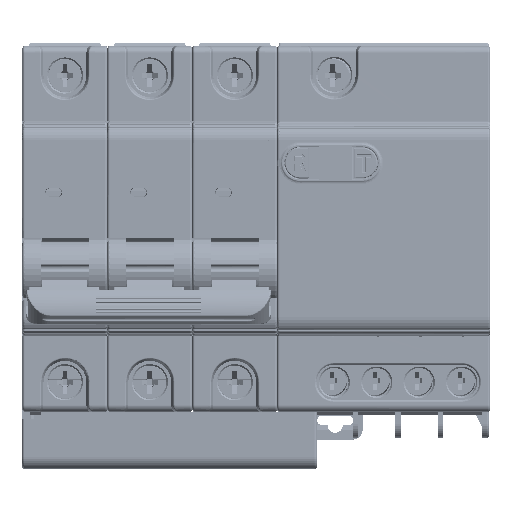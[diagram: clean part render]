
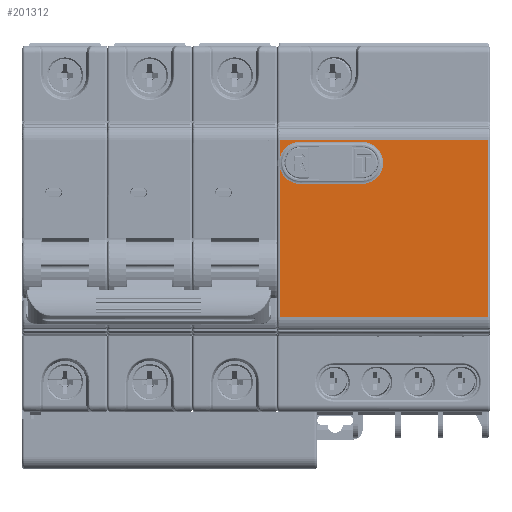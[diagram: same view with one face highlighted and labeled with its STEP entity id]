
A CAD part, top view. The second image highlights one B-rep face of the part: STEP entity #201312.
In plain terms, the highlighted planar face has unit normal (0, 0, 1) as drawn and (0, 1, 0) by its records, which use the part's own axes.
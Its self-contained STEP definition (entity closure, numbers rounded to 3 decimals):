
#8890 = CARTESIAN_POINT ( 'NONE',  ( 22.5, 14., 53.4 ) ) ;
#11110 = CARTESIAN_POINT ( 'NONE',  ( 12.852, 14., 53.9 ) ) ;
#13537 = CARTESIAN_POINT ( 'NONE',  ( 9.405, 14., 71.2 ) ) ;
#16001 = CARTESIAN_POINT ( 'NONE',  ( 13.8, 14., 58.2 ) ) ;
#20231 = VERTEX_POINT ( 'NONE', #381033 ) ;
#21774 = CARTESIAN_POINT ( 'NONE',  ( 14.748, 14., 53.9 ) ) ;
#35512 = CARTESIAN_POINT ( 'NONE',  ( -18.5, 14., 97.5 ) ) ;
#39572 = VERTEX_POINT ( 'NONE', #11110 ) ;
#44942 = DIRECTION ( 'NONE',  ( -1., 0., 0. ) ) ;
#47739 = CARTESIAN_POINT ( 'NONE',  ( -18.5, 14., 97.5 ) ) ;
#49566 = CARTESIAN_POINT ( 'NONE',  ( 9.397, 14., 58.2 ) ) ;
#54846 = CARTESIAN_POINT ( 'NONE',  ( 18.5, 14., 97.5 ) ) ;
#60823 = LINE ( 'NONE', #223424, #78233 ) ;
#67202 = AXIS2_PLACEMENT_3D ( 'NONE', #209396, #108935, #363497 ) ;
#78233 = VECTOR ( 'NONE', #379637, 1000. ) ;
#81661 = ORIENTED_EDGE ( 'NONE', *, *, #420386, .F. ) ;
#88017 = EDGE_CURVE ( 'NONE', #197928, #267893, #149338, .T. ) ;
#93606 = CARTESIAN_POINT ( 'NONE',  ( 9.397, 14., 58.2 ) ) ;
#93959 = VERTEX_POINT ( 'NONE', #409238 ) ;
#103991 = EDGE_CURVE ( 'NONE', #20231, #301084, #367635, .T. ) ;
#107470 = CARTESIAN_POINT ( 'NONE',  ( 9.401, 14., 66.867 ) ) ;
#108935 = DIRECTION ( 'NONE',  ( 0., 1., 0. ) ) ;
#111171 = CARTESIAN_POINT ( 'NONE',  ( 18.5, 14., 97.5 ) ) ;
#113362 = LINE ( 'NONE', #175386, #361345 ) ;
#131083 = ORIENTED_EDGE ( 'NONE', *, *, #103991, .F. ) ;
#131208 = CARTESIAN_POINT ( 'NONE',  ( 18.5, 14., 53.9 ) ) ;
#139335 = DIRECTION ( 'NONE',  ( 0., 1., 0. ) ) ;
#140739 = CARTESIAN_POINT ( 'NONE',  ( 18.203, 14., 58.2 ) ) ;
#146419 = DIRECTION ( 'NONE',  ( -0.215, 0., -0.977 ) ) ;
#149338 = CIRCLE ( 'NONE', #67202, 4.403 ) ;
#152041 = ORIENTED_EDGE ( 'NONE', *, *, #416262, .T. ) ;
#152795 = ORIENTED_EDGE ( 'NONE', *, *, #250475, .T. ) ;
#175386 = CARTESIAN_POINT ( 'NONE',  ( 18.5, 14., 53.9 ) ) ;
#183963 = CARTESIAN_POINT ( 'NONE',  ( 18.207, 14., 71.195 ) ) ;
#186704 = DIRECTION ( 'NONE',  ( 1., 0., 0. ) ) ;
#189418 = ORIENTED_EDGE ( 'NONE', *, *, #260406, .T. ) ;
#197928 = VERTEX_POINT ( 'NONE', #13537 ) ;
#201312 = ADVANCED_FACE ( 'NONE', ( #301912 ), #336091, .T. ) ;
#201997 = VERTEX_POINT ( 'NONE', #93606 ) ;
#209396 = CARTESIAN_POINT ( 'NONE',  ( 13.81, 14., 71.2 ) ) ;
#223424 = CARTESIAN_POINT ( 'NONE',  ( -18.5, 14., 53.9 ) ) ;
#226868 = VECTOR ( 'NONE', #303648, 1000. ) ;
#233600 = CIRCLE ( 'NONE', #329423, 4.403 ) ;
#234937 = CARTESIAN_POINT ( 'NONE',  ( 18.208, 14., 66.863 ) ) ;
#241223 = CARTESIAN_POINT ( 'NONE',  ( 18.207, 14., 71.195 ) ) ;
#244181 = ORIENTED_EDGE ( 'NONE', *, *, #363155, .T. ) ;
#250475 = EDGE_CURVE ( 'NONE', #20231, #267893, #407671, .T. ) ;
#252081 = AXIS2_PLACEMENT_3D ( 'NONE', #8890, #139335, #271935 ) ;
#260107 = DIRECTION ( 'NONE',  ( 1., 0., 0. ) ) ;
#260406 = EDGE_CURVE ( 'NONE', #312184, #350527, #347875, .T. ) ;
#267893 = VERTEX_POINT ( 'NONE', #183963 ) ;
#267919 = CARTESIAN_POINT ( 'NONE',  ( 9.399, 14., 62.533 ) ) ;
#271935 = DIRECTION ( 'NONE',  ( 1., 0., 0. ) ) ;
#281551 = VECTOR ( 'NONE', #260107, 1000. ) ;
#283719 = DIRECTION ( 'NONE',  ( 0., 0., -1. ) ) ;
#289268 = CARTESIAN_POINT ( 'NONE',  ( 13.8, 14., 58.2 ) ) ;
#290479 = VERTEX_POINT ( 'NONE', #47739 ) ;
#301084 = VERTEX_POINT ( 'NONE', #21774 ) ;
#301912 = FACE_OUTER_BOUND ( 'NONE', #381215, .T. ) ;
#302723 = ORIENTED_EDGE ( 'NONE', *, *, #88017, .F. ) ;
#303648 = DIRECTION ( 'NONE',  ( -1., 0., 0. ) ) ;
#304138 = B_SPLINE_CURVE_WITH_KNOTS ( 'NONE', 3,
 ( #306318, #107470, #267919, #49566 ),
 .UNSPECIFIED., .F., .F.,
 ( 4, 4 ),
 ( 0., 1. ),
 .UNSPECIFIED. ) ;
#306318 = CARTESIAN_POINT ( 'NONE',  ( 9.405, 14., 71.2 ) ) ;
#312184 = VERTEX_POINT ( 'NONE', #111171 ) ;
#313260 = DIRECTION ( 'NONE',  ( 0., 1., 0. ) ) ;
#318035 = ORIENTED_EDGE ( 'NONE', *, *, #324209, .T. ) ;
#321464 = EDGE_CURVE ( 'NONE', #290479, #312184, #328499, .T. ) ;
#324209 = EDGE_CURVE ( 'NONE', #93959, #290479, #60823, .T. ) ;
#325721 = AXIS2_PLACEMENT_3D ( 'NONE', #289268, #415569, #186704 ) ;
#328499 = LINE ( 'NONE', #35512, #281551 ) ;
#329423 = AXIS2_PLACEMENT_3D ( 'NONE', #16001, #313260, #146419 ) ;
#335736 = CARTESIAN_POINT ( 'NONE',  ( 12.852, 14., 53.9 ) ) ;
#336091 = PLANE ( 'NONE',  #252081 ) ;
#342043 = ORIENTED_EDGE ( 'NONE', *, *, #321464, .T. ) ;
#347875 = LINE ( 'NONE', #54846, #362403 ) ;
#350527 = VERTEX_POINT ( 'NONE', #131208 ) ;
#361345 = VECTOR ( 'NONE', #44942, 1000. ) ;
#362403 = VECTOR ( 'NONE', #283719, 1000. ) ;
#363155 = EDGE_CURVE ( 'NONE', #350527, #301084, #113362, .T. ) ;
#363497 = DIRECTION ( 'NONE',  ( -1., 0., 0. ) ) ;
#367635 = CIRCLE ( 'NONE', #325721, 4.403 ) ;
#371450 = ORIENTED_EDGE ( 'NONE', *, *, #403971, .T. ) ;
#379637 = DIRECTION ( 'NONE',  ( 0., 0., 1. ) ) ;
#381033 = CARTESIAN_POINT ( 'NONE',  ( 18.203, 14., 58.2 ) ) ;
#381215 = EDGE_LOOP ( 'NONE', ( #244181, #131083, #152795, #302723, #152041, #81661, #371450, #318035, #342043, #189418 ) ) ;
#399573 = CARTESIAN_POINT ( 'NONE',  ( 18.206, 14., 62.532 ) ) ;
#399901 = LINE ( 'NONE', #335736, #226868 ) ;
#403971 = EDGE_CURVE ( 'NONE', #39572, #93959, #399901, .T. ) ;
#407671 = B_SPLINE_CURVE_WITH_KNOTS ( 'NONE', 3,
 ( #140739, #399573, #234937, #241223 ),
 .UNSPECIFIED., .F., .F.,
 ( 4, 4 ),
 ( 0., 1. ),
 .UNSPECIFIED. ) ;
#409238 = CARTESIAN_POINT ( 'NONE',  ( -18.5, 14., 53.9 ) ) ;
#415569 = DIRECTION ( 'NONE',  ( 0., 1., 0. ) ) ;
#416262 = EDGE_CURVE ( 'NONE', #197928, #201997, #304138, .T. ) ;
#420386 = EDGE_CURVE ( 'NONE', #39572, #201997, #233600, .T. ) ;
